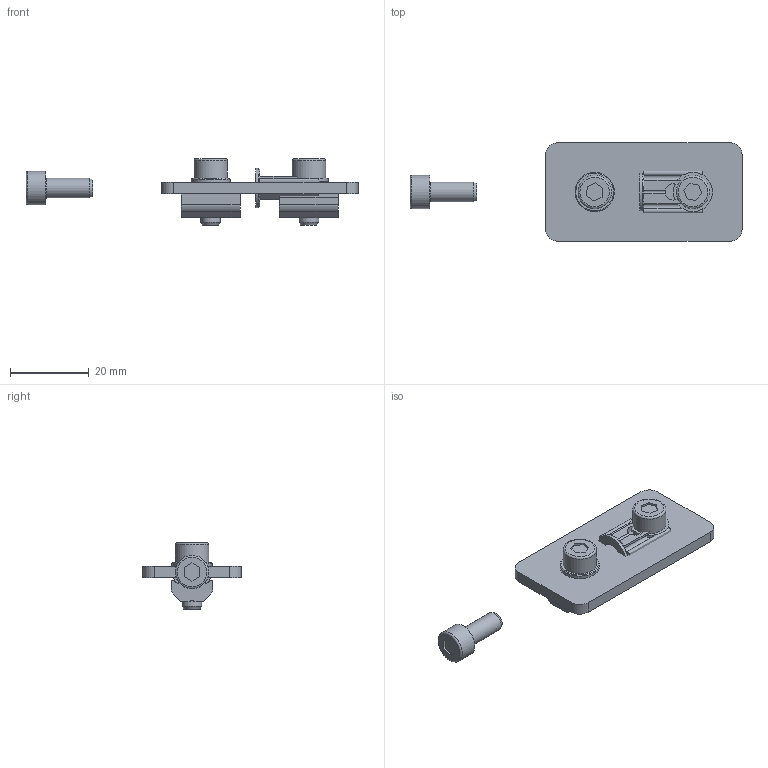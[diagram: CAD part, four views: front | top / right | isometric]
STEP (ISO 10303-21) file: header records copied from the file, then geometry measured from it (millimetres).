
FILE_DESCRIPTION( ( 'STEP AP214' ), '1' );
FILE_NAME( 'C:/Users/Segreteria/Desktop/CA.VBG.X.25.50.stp', '2014-07-14T09:15:40', ( ' ' ), ( ' ' ), 'XStep 1.0', ' ', ' ' );
FILE_SCHEMA( ( 'CONFIG_CONTROL_DESIGN) ( )' ) );
Length unit declared in the file: metre
Products named in the file (6): Assem1; VBG.X.25.50; R.5; CA.GWP.5U; V-tcei M  5 x 12
Bounding box: 84.5 x 25 x 17 mm (x, y, z)
Volume: 11545.3 mm3; surface area: 9941.9 mm2
Topology: 12 solids, 12 shells, 171 faces, 414 edges, 269 vertices
Faces by surface type: plane 97, cylinder 59, torus 8, cone 7
Full cylindrical faces by diameter (mm): 4.134 x3, 5 x4, 5.3 x7, 8.5 x4, 10 x3
Entity records: 2119 total; most frequent: CARTESIAN_POINT 376, DIRECTION 357, ORIENTED_EDGE 304, EDGE_CURVE 152, AXIS2_PLACEMENT_3D 130, VERTEX_POINT 109, EDGE_LOOP 97, LINE 97
